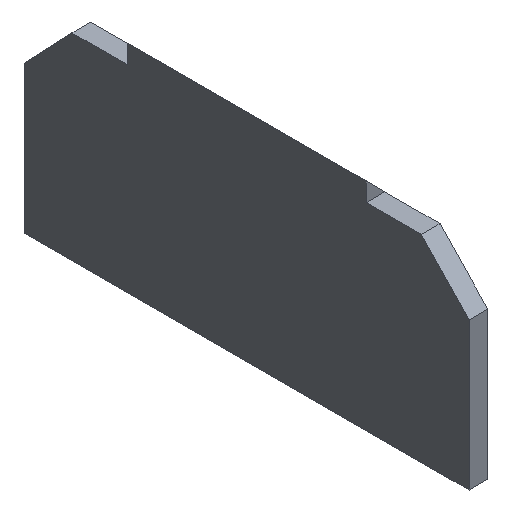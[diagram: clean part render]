
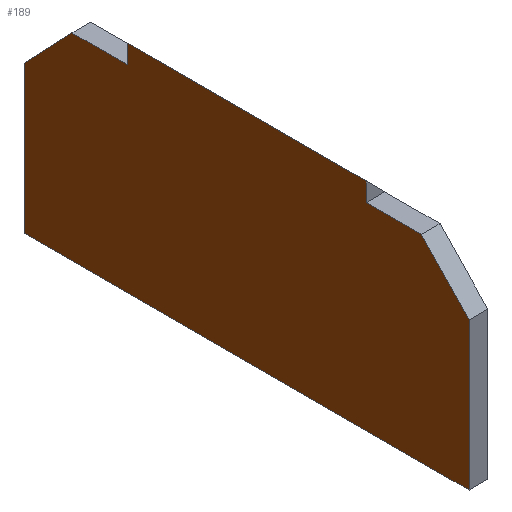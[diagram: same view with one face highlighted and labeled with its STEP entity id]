
A CAD part, isometric view. The second image highlights one B-rep face of the part: STEP entity #189.
In plain terms, the highlighted planar face has unit normal (-1, 0, 0).
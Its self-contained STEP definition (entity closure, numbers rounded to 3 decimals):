
#102=CARTESIAN_POINT('',(-2.4,0.,28.4));
#103=DIRECTION('',(0.,1.,0.));
#104=DIRECTION('',(1.,0.,0.));
#105=AXIS2_PLACEMENT_3D('',#102,#104,#103);
#106=PLANE('',#105);
#107=CARTESIAN_POINT('',(-2.4,-28.4,0.));
#108=VERTEX_POINT('',#107);
#109=CARTESIAN_POINT('',(-2.4,28.4,0.));
#110=VERTEX_POINT('',#109);
#111=CARTESIAN_POINT('',(-2.4,-28.4,0.));
#112=DIRECTION('',(0.,1.,0.));
#113=VECTOR('',#112,56.8);
#114=LINE('',#111,#113);
#115=EDGE_CURVE('',#108,#110,#114,.T.);
#116=ORIENTED_EDGE('E11',*,*,#115,.T.);
#117=CARTESIAN_POINT('',(-2.4,28.4,18.8));
#118=VERTEX_POINT('',#117);
#119=CARTESIAN_POINT('',(-2.4,28.4,0.));
#120=DIRECTION('',(0.,0.,1.));
#121=VECTOR('',#120,18.8);
#122=LINE('',#119,#121);
#123=EDGE_CURVE('',#110,#118,#122,.T.);
#124=ORIENTED_EDGE('E12',*,*,#123,.T.);
#125=CARTESIAN_POINT('',(-2.4,22.3,25.2));
#126=VERTEX_POINT('',#125);
#127=CARTESIAN_POINT('',(-2.4,28.4,18.8));
#128=DIRECTION('',(0.,-0.69,0.724));
#129=VECTOR('',#128,8.841);
#130=LINE('',#127,#129);
#131=EDGE_CURVE('',#118,#126,#130,.T.);
#132=ORIENTED_EDGE('E13',*,*,#131,.T.);
#133=CARTESIAN_POINT('',(-2.4,15.25,25.2));
#134=VERTEX_POINT('',#133);
#135=CARTESIAN_POINT('',(-2.4,22.3,25.2));
#136=DIRECTION('',(0.,-1.,0.));
#137=VECTOR('',#136,7.05);
#138=LINE('',#135,#137);
#139=EDGE_CURVE('',#126,#134,#138,.T.);
#140=ORIENTED_EDGE('E14',*,*,#139,.T.);
#141=CARTESIAN_POINT('',(-2.4,15.25,27.6));
#142=VERTEX_POINT('',#141);
#143=CARTESIAN_POINT('',(-2.4,15.25,25.2));
#144=DIRECTION('',(0.,0.,1.));
#145=VECTOR('',#144,2.4);
#146=LINE('',#143,#145);
#147=EDGE_CURVE('',#134,#142,#146,.T.);
#148=ORIENTED_EDGE('E15',*,*,#147,.T.);
#149=CARTESIAN_POINT('',(-2.4,-15.25,27.6));
#150=VERTEX_POINT('',#149);
#151=CARTESIAN_POINT('',(-2.4,15.25,27.6));
#152=DIRECTION('',(0.,-1.,0.));
#153=VECTOR('',#152,30.5);
#154=LINE('',#151,#153);
#155=EDGE_CURVE('',#142,#150,#154,.T.);
#156=ORIENTED_EDGE('E32',*,*,#155,.T.);
#157=CARTESIAN_POINT('',(-2.4,-15.25,25.2));
#158=VERTEX_POINT('',#157);
#159=CARTESIAN_POINT('',(-2.4,-15.25,27.6));
#160=DIRECTION('',(0.,0.,-1.));
#161=VECTOR('',#160,2.4);
#162=LINE('',#159,#161);
#163=EDGE_CURVE('',#150,#158,#162,.T.);
#164=ORIENTED_EDGE('E17',*,*,#163,.T.);
#165=CARTESIAN_POINT('',(-2.4,-22.3,25.2));
#166=VERTEX_POINT('',#165);
#167=CARTESIAN_POINT('',(-2.4,-15.25,25.2));
#168=DIRECTION('',(0.,-1.,0.));
#169=VECTOR('',#168,7.05);
#170=LINE('',#167,#169);
#171=EDGE_CURVE('',#158,#166,#170,.T.);
#172=ORIENTED_EDGE('E18',*,*,#171,.T.);
#173=CARTESIAN_POINT('',(-2.4,-28.4,18.8));
#174=VERTEX_POINT('',#173);
#175=CARTESIAN_POINT('',(-2.4,-22.3,25.2));
#176=DIRECTION('',(0.,-0.69,-0.724));
#177=VECTOR('',#176,8.841);
#178=LINE('',#175,#177);
#179=EDGE_CURVE('',#166,#174,#178,.T.);
#180=ORIENTED_EDGE('E19',*,*,#179,.T.);
#181=CARTESIAN_POINT('',(-2.4,-28.4,18.8));
#182=DIRECTION('',(0.,0.,-1.));
#183=VECTOR('',#182,18.8);
#184=LINE('',#181,#183);
#185=EDGE_CURVE('',#174,#108,#184,.T.);
#186=ORIENTED_EDGE('E20',*,*,#185,.T.);
#187=EDGE_LOOP('',(#116,#124,#132,#140,#148,#156,#164,#172,#180,#186));
#188=FACE_OUTER_BOUND('',#187,.F.);
#189=ADVANCED_FACE('F2',(#188),#106,.F.);
